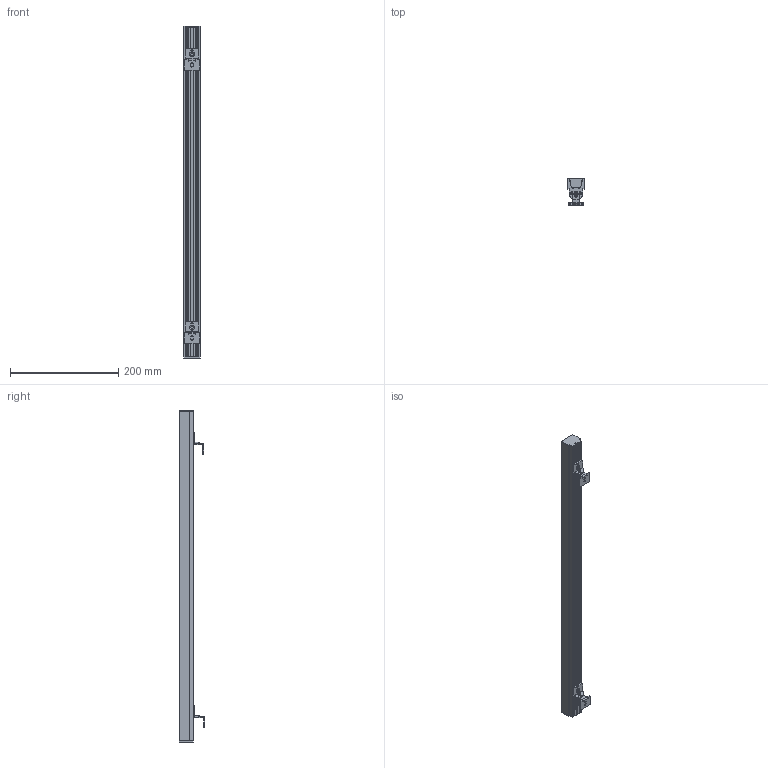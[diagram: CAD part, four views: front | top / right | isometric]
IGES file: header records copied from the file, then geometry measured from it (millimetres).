
Start section: SolidWorks IGES file using analytic representation for surfaces
Global section: file name: L:\Tecnico_PMT\R&D\NEMOstudio\WALKLINE Facade\PLAFONE\3D SITO\FACADE 610.IGS; native system: SolidWorks 2016; preprocessor: SolidWorks 2016; author: MartinaCornero; date: 230323.151946; units: millimetre
Bounding box: 30.36 x 47.51 x 614 mm (x, y, z)
Surface area: 201409.2 mm2 (no closed solid volume)
Topology: 0 solids, 0 shells, 776 faces, 6560 edges, 6560 vertices
Faces by surface type: bspline 508, revolution 268
